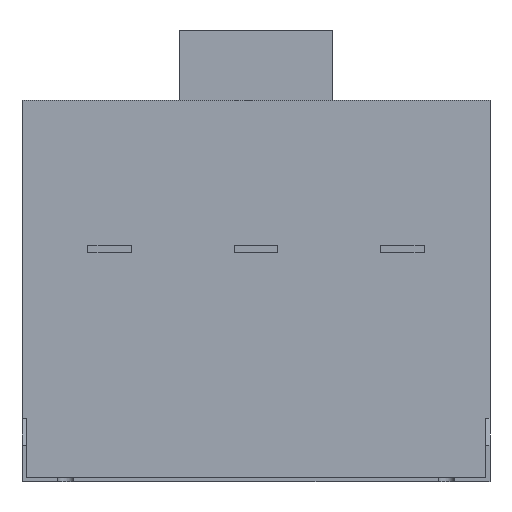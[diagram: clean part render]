
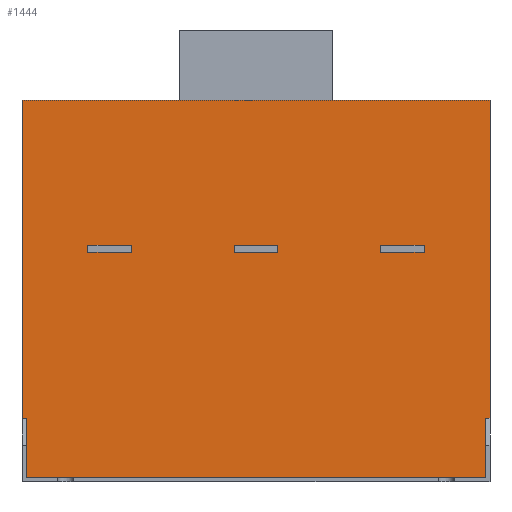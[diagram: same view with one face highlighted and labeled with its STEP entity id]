
A CAD part, front view. The second image highlights one B-rep face of the part: STEP entity #1444.
In plain terms, the highlighted planar face has unit normal (0, -1, 0).
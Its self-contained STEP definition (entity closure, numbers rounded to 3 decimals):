
#27=FACE_BOUND('',#245,.T.);
#28=FACE_BOUND('',#246,.T.);
#29=FACE_BOUND('',#247,.T.);
#82=PLANE('',#1567);
#157=FACE_OUTER_BOUND('',#244,.T.);
#244=EDGE_LOOP('',(#1232,#1233,#1234,#1235,#1236,#1237,#1238,#1239));
#245=EDGE_LOOP('',(#1240,#1241,#1242,#1243));
#246=EDGE_LOOP('',(#1244,#1245,#1246,#1247));
#247=EDGE_LOOP('',(#1248,#1249,#1250,#1251));
#276=LINE('',#2004,#448);
#280=LINE('',#2012,#452);
#283=LINE('',#2018,#455);
#286=LINE('',#2023,#458);
#288=LINE('',#2029,#460);
#292=LINE('',#2037,#464);
#295=LINE('',#2043,#467);
#298=LINE('',#2048,#470);
#300=LINE('',#2054,#472);
#304=LINE('',#2062,#476);
#307=LINE('',#2068,#479);
#310=LINE('',#2073,#482);
#378=LINE('',#2247,#550);
#392=LINE('',#2273,#564);
#395=LINE('',#2279,#567);
#404=LINE('',#2299,#576);
#405=LINE('',#2301,#577);
#406=LINE('',#2303,#578);
#407=LINE('',#2305,#579);
#408=LINE('',#2306,#580);
#448=VECTOR('',#1630,10.);
#452=VECTOR('',#1636,10.);
#455=VECTOR('',#1641,10.);
#458=VECTOR('',#1646,10.);
#460=VECTOR('',#1652,10.);
#464=VECTOR('',#1658,10.);
#467=VECTOR('',#1663,10.);
#470=VECTOR('',#1668,10.);
#472=VECTOR('',#1674,10.);
#476=VECTOR('',#1680,10.);
#479=VECTOR('',#1685,10.);
#482=VECTOR('',#1690,10.);
#550=VECTOR('',#1852,10.);
#564=VECTOR('',#1872,10.);
#567=VECTOR('',#1877,10.);
#576=VECTOR('',#1892,10.);
#577=VECTOR('',#1895,10.);
#578=VECTOR('',#1896,10.);
#579=VECTOR('',#1897,10.);
#580=VECTOR('',#1898,10.);
#654=VERTEX_POINT('',#2002);
#655=VERTEX_POINT('',#2003);
#658=VERTEX_POINT('',#2011);
#660=VERTEX_POINT('',#2017);
#662=VERTEX_POINT('',#2027);
#663=VERTEX_POINT('',#2028);
#666=VERTEX_POINT('',#2036);
#668=VERTEX_POINT('',#2042);
#670=VERTEX_POINT('',#2052);
#671=VERTEX_POINT('',#2053);
#674=VERTEX_POINT('',#2061);
#676=VERTEX_POINT('',#2067);
#735=VERTEX_POINT('',#2244);
#736=VERTEX_POINT('',#2246);
#744=VERTEX_POINT('',#2269);
#745=VERTEX_POINT('',#2271);
#746=VERTEX_POINT('',#2275);
#747=VERTEX_POINT('',#2277);
#756=VERTEX_POINT('',#2302);
#757=VERTEX_POINT('',#2304);
#792=EDGE_CURVE('',#654,#655,#276,.T.);
#796=EDGE_CURVE('',#655,#658,#280,.T.);
#799=EDGE_CURVE('',#658,#660,#283,.T.);
#802=EDGE_CURVE('',#660,#654,#286,.T.);
#804=EDGE_CURVE('',#662,#663,#288,.T.);
#808=EDGE_CURVE('',#663,#666,#292,.T.);
#811=EDGE_CURVE('',#666,#668,#295,.T.);
#814=EDGE_CURVE('',#668,#662,#298,.T.);
#816=EDGE_CURVE('',#670,#671,#300,.T.);
#820=EDGE_CURVE('',#671,#674,#304,.T.);
#823=EDGE_CURVE('',#674,#676,#307,.T.);
#826=EDGE_CURVE('',#676,#670,#310,.T.);
#910=EDGE_CURVE('',#736,#735,#378,.T.);
#924=EDGE_CURVE('',#745,#744,#392,.T.);
#927=EDGE_CURVE('',#747,#746,#395,.T.);
#936=EDGE_CURVE('',#735,#746,#404,.T.);
#937=EDGE_CURVE('',#745,#736,#405,.T.);
#938=EDGE_CURVE('',#756,#747,#406,.T.);
#939=EDGE_CURVE('',#757,#756,#407,.T.);
#940=EDGE_CURVE('',#744,#757,#408,.T.);
#1232=ORIENTED_EDGE('',*,*,#937,.T.);
#1233=ORIENTED_EDGE('',*,*,#910,.T.);
#1234=ORIENTED_EDGE('',*,*,#936,.T.);
#1235=ORIENTED_EDGE('',*,*,#927,.F.);
#1236=ORIENTED_EDGE('',*,*,#938,.F.);
#1237=ORIENTED_EDGE('',*,*,#939,.F.);
#1238=ORIENTED_EDGE('',*,*,#940,.F.);
#1239=ORIENTED_EDGE('',*,*,#924,.F.);
#1240=ORIENTED_EDGE('',*,*,#792,.T.);
#1241=ORIENTED_EDGE('',*,*,#796,.T.);
#1242=ORIENTED_EDGE('',*,*,#799,.T.);
#1243=ORIENTED_EDGE('',*,*,#802,.T.);
#1244=ORIENTED_EDGE('',*,*,#804,.T.);
#1245=ORIENTED_EDGE('',*,*,#808,.T.);
#1246=ORIENTED_EDGE('',*,*,#811,.T.);
#1247=ORIENTED_EDGE('',*,*,#814,.T.);
#1248=ORIENTED_EDGE('',*,*,#816,.T.);
#1249=ORIENTED_EDGE('',*,*,#820,.T.);
#1250=ORIENTED_EDGE('',*,*,#823,.T.);
#1251=ORIENTED_EDGE('',*,*,#826,.T.);
#1444=ADVANCED_FACE('',(#157,#27,#28,#29),#82,.T.);
#1567=AXIS2_PLACEMENT_3D('',#2300,#1893,#1894);
#1630=DIRECTION('',(0.,0.,1.));
#1636=DIRECTION('',(1.,0.,0.));
#1641=DIRECTION('',(0.,0.,-1.));
#1646=DIRECTION('',(-1.,0.,0.));
#1652=DIRECTION('',(0.,0.,1.));
#1658=DIRECTION('',(1.,0.,0.));
#1663=DIRECTION('',(0.,0.,-1.));
#1668=DIRECTION('',(-1.,0.,0.));
#1674=DIRECTION('',(0.,0.,1.));
#1680=DIRECTION('',(1.,0.,0.));
#1685=DIRECTION('',(0.,0.,-1.));
#1690=DIRECTION('',(-1.,0.,0.));
#1852=DIRECTION('',(1.,0.,0.));
#1872=DIRECTION('',(-1.,0.,0.));
#1877=DIRECTION('',(-1.,0.,0.));
#1892=DIRECTION('',(0.,0.,1.));
#1893=DIRECTION('center_axis',(0.,-1.,0.));
#1894=DIRECTION('ref_axis',(1.,0.,0.));
#1895=DIRECTION('',(0.,0.,-1.));
#1896=DIRECTION('',(0.,0.,-1.));
#1897=DIRECTION('',(1.,0.,0.));
#1898=DIRECTION('',(0.,0.,1.));
#2002=CARTESIAN_POINT('',(-115.,-363.,157.));
#2003=CARTESIAN_POINT('',(-115.,-363.,162.));
#2004=CARTESIAN_POINT('',(-115.,-363.,81.));
#2011=CARTESIAN_POINT('',(-85.,-363.,162.));
#2012=CARTESIAN_POINT('',(-122.5,-363.,162.));
#2017=CARTESIAN_POINT('',(-85.,-363.,157.));
#2018=CARTESIAN_POINT('',(-85.,-363.,78.5));
#2023=CARTESIAN_POINT('',(-137.5,-363.,157.));
#2027=CARTESIAN_POINT('',(-15.,-363.,157.));
#2028=CARTESIAN_POINT('',(-15.,-363.,162.));
#2029=CARTESIAN_POINT('',(-15.,-363.,81.));
#2036=CARTESIAN_POINT('',(15.,-363.,162.));
#2037=CARTESIAN_POINT('',(-72.5,-363.,162.));
#2042=CARTESIAN_POINT('',(15.,-363.,157.));
#2043=CARTESIAN_POINT('',(15.,-363.,78.5));
#2048=CARTESIAN_POINT('',(-87.5,-363.,157.));
#2052=CARTESIAN_POINT('',(85.,-363.,157.));
#2053=CARTESIAN_POINT('',(85.,-363.,162.));
#2054=CARTESIAN_POINT('',(85.,-363.,81.));
#2061=CARTESIAN_POINT('',(115.,-363.,162.));
#2062=CARTESIAN_POINT('',(-22.5,-363.,162.));
#2067=CARTESIAN_POINT('',(115.,-363.,157.));
#2068=CARTESIAN_POINT('',(115.,-363.,78.5));
#2073=CARTESIAN_POINT('',(-37.5,-363.,157.));
#2244=CARTESIAN_POINT('',(157.,-363.,3.));
#2246=CARTESIAN_POINT('',(-157.,-363.,3.));
#2247=CARTESIAN_POINT('',(-1.5,-363.,3.));
#2269=CARTESIAN_POINT('',(-160.,-363.,43.46));
#2271=CARTESIAN_POINT('',(-157.,-363.,43.46));
#2273=CARTESIAN_POINT('',(160.,-363.,43.46));
#2275=CARTESIAN_POINT('',(157.,-363.,43.46));
#2277=CARTESIAN_POINT('',(160.,-363.,43.46));
#2279=CARTESIAN_POINT('',(160.,-363.,43.46));
#2299=CARTESIAN_POINT('',(157.,-363.,130.5));
#2300=CARTESIAN_POINT('Origin',(-160.,-363.,0.));
#2301=CARTESIAN_POINT('',(-157.,-363.,1.5));
#2302=CARTESIAN_POINT('',(160.,-363.,261.));
#2303=CARTESIAN_POINT('',(160.,-363.,150.911));
#2304=CARTESIAN_POINT('',(-160.,-363.,261.));
#2305=CARTESIAN_POINT('',(80.,-363.,261.));
#2306=CARTESIAN_POINT('',(-160.,-363.,150.911));
